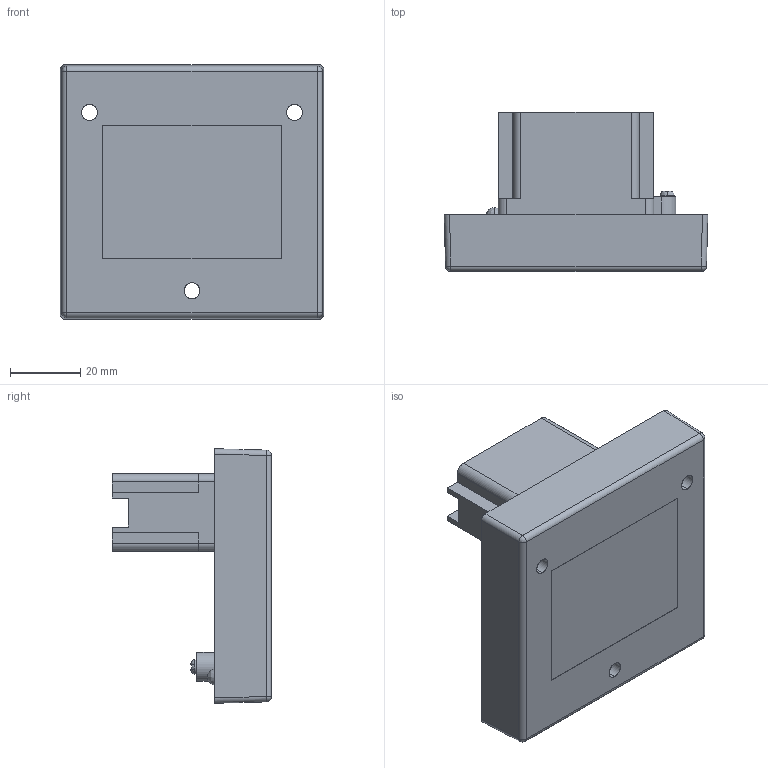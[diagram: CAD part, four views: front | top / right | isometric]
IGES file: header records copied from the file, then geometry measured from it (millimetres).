
Start section: SolidWorks IGES file using analytic representation for surfaces
Global section: file name: C:\Dans Design Files\TD Stuff\EMC Assy.IGS; native system: SolidWorks 2015; preprocessor: SolidWorks 2015; author: dphillips; date: 160111.071752; units: inch
Bounding box: 75.11 x 45.34 x 72.49 mm (x, y, z)
Surface area: 26573.5 mm2 (no closed solid volume)
Topology: 0 solids, 0 shells, 2964 faces, 29079 edges, 29079 vertices
Faces by surface type: bspline 2896, revolution 68
